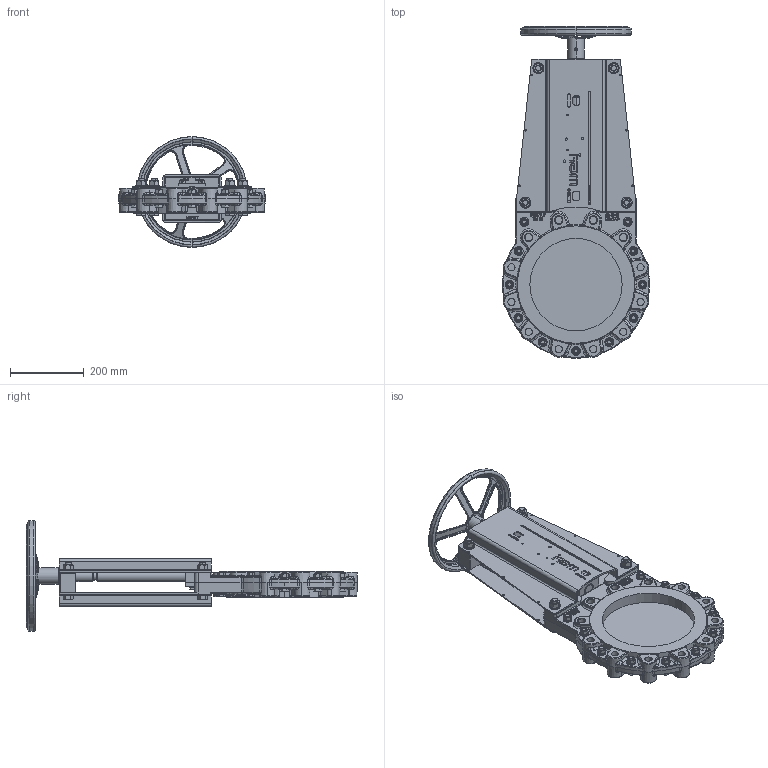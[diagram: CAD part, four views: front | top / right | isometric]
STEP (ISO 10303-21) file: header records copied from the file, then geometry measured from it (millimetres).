
FILE_DESCRIPTION (( 'STEP AP203' ), '1' );
FILE_NAME ('VMA DN 250 DH300.step', '2013-09-30T09:15:12', ( 'admin' ), ( '' ), 'SwSTEP 2.0', 'SolidWorks 2013', '' );
FILE_SCHEMA (( 'CONFIG_CONTROL_DESIGN' ));
Products named in the file (1): VMA DN 250 DH300
Bounding box: 398 x 898.64 x 300 mm (x, y, z)
Volume: 8430486.1 mm3; surface area: 1441897.5 mm2
Topology: 69 solids, 70 shells, 3531 faces, 8505 edges, 5119 vertices
Faces by surface type: plane 1261, cylinder 834, bspline 677, cone 529, torus 230
Entity records: 136556 total; most frequent: CARTESIAN_POINT 59324, ORIENTED_EDGE 16774, DIRECTION 14844, EDGE_CURVE 8387, AXIS2_PLACEMENT_3D 5700, VERTEX_POINT 5119, EDGE_LOOP 3898, ADVANCED_FACE 3531
